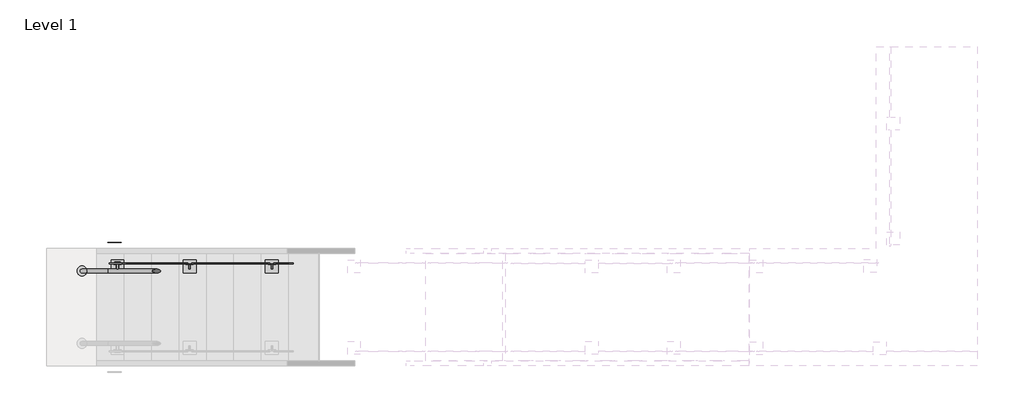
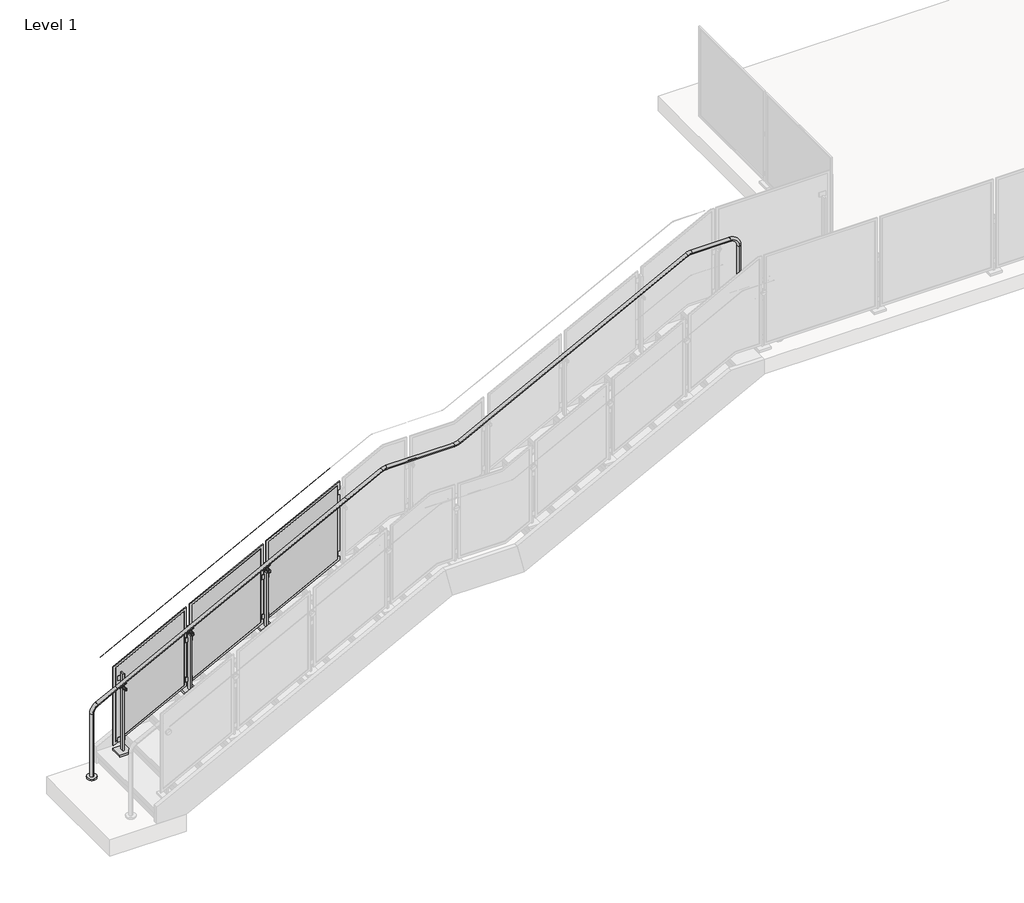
# One storey, part 13 of 28: 1 railing.
"""IFC4 building model written with IfcOpenShell, lengths in millimetres."""

from ifc_helpers import new_model, si_unit, point, frame, frame_2d, origin, place, context, project, spatial, polyline, circle_curve, ellipse_curve, trimmed, segment, composite_curve, outline, extrude, element, save
from ifc_brep_helpers import plane_surface, cylinder_surface, revolved_surface, advanced_brep

model = new_model("IFC4")

# Units and contexts
model_context = context("Model", 3, world=origin())
ifc_project = project(units=[si_unit("LENGTHUNIT", "METRE", prefix="MILLI")], contexts=[model_context])

# Site, building, storey
site = spatial("IfcSite", under=ifc_project)
building = spatial("IfcBuilding", under=site)
storey = spatial("IfcBuildingStorey", under=building, Name="Level 1", Elevation=0.0)

# Railing
placement = place(None, origin())
element("IfcRailing", 1, ObjectType="Metal-Panel-VIVA-STRUC-Slab-Top-Anchor-Stairs-Lower", at=placement, inside=storey, context=model_context, shape_type="SolidModel", body=[
    extrude(outline(composite_curve([segment(trimmed(circle_curve(frame_2d((-12073.0515794, -17632.5072387)), 50.8), [point((-12073.0515794, -17683.3072387))], [point((-12073.0515794, -17581.7072387))], False, "CARTESIAN"), True, "CONTINUOUS"), segment(trimmed(circle_curve(frame_2d((-12073.0515794, -17632.5072387)), 50.8), [point((-12073.0515794, -17581.7072387))], [point((-12073.0515794, -17683.3072387))], False, "CARTESIAN"), True, "CONTINUOUS")], self_intersect=False)), frame((0.0, 0.0, 3047.9164465), z_axis=(0.0, 0.0, 1.0), x_axis=(1.0, 0.0, 0.0)), (0.0, 0.0, 1.0), 19.05),
    extrude(outline(composite_curve([segment(trimmed(circle_curve(frame_2d((-19157.6813244, -17632.5072387)), 50.8), [point((-19157.6813244, -17581.7072387))], [point((-19157.6813244, -17683.3072387))], False, "CARTESIAN"), True, "CONTINUOUS"), segment(trimmed(circle_curve(frame_2d((-19157.6813244, -17632.5072387)), 50.8), [point((-19157.6813244, -17683.3072387))], [point((-19157.6813244, -17581.7072387))], False, "CARTESIAN"), True, "CONTINUOUS")], self_intersect=False)), frame((0.0, 0.0, -0.1113211), z_axis=(0.0, 0.0, 1.0), x_axis=(1.0, 0.0, 0.0)), (0.0, 0.0, 1.0), 19.05),
    advanced_brep(
    [(-19157.6813244, -17651.5572387, 18.9386789), (-19157.6813244, -17613.4572387, 18.9386789), (-19157.6813244, -17651.5572387, 743.6520958), (-19157.6813244, -17613.4572387, 743.6520958), (-19102.917891, -17613.4572387, 833.8124864), (-19102.917891, -17651.5572387, 833.8124864), (-18888.5494682, -17651.5572387, 945.172706), (-18888.5494682, -17613.4572387, 945.172706), (-16373.9494682, -17651.5572387, 2251.4584203), (-16373.9494682, -17613.4572387, 2251.4584203), (-15937.6556338, -17613.4572387, 2465.2134935), (-15937.6556338, -17651.5572387, 2465.2134935), (-15199.5082651, -17651.5572387, 2465.2134935), (-15199.5082651, -17613.4572387, 2465.2134935), (-15135.1079861, -17613.4572387, 2480.9429564), (-15135.1079861, -17651.5572387, 2480.9429564), (-12645.7274553, -17651.5572387, 3774.1276477), (-12645.7274553, -17613.4572387, 3774.1276477), (-15984.4922003, -17651.5572387, 2453.7738841), (-15984.4922003, -17613.4572387, 2453.7738841), (-12598.8908888, -17613.4572387, 3785.5672571), (-12598.8908888, -17651.5572387, 3785.5672571), (-12174.6515794, -17651.5572387, 3785.5672571), (-12174.6515794, -17613.4572387, 3785.5672571), (-12073.0515794, -17613.4572387, 3683.9672571), (-12073.0515794, -17651.5572387, 3683.9672571), (-12073.0515794, -17651.5572387, 3066.9664465), (-12073.0515794, -17613.4572387, 3066.9664465)],
    [
        (0, 1, circle_curve(frame((-19157.6813244, -17632.5072387, 18.9386789), z_axis=(0.0, 0.0, -1.0), x_axis=(0.0, 1.0, 0.0)), 19.05)),
        (1, 0, circle_curve(frame((-19157.6813244, -17632.5072387, 18.9386789), z_axis=(0.0, 0.0, -1.0), x_axis=(0.0, 1.0, 0.0)), 19.05)),
        (0, 2),
        (2, 3, circle_curve(frame((-19157.6813244, -17632.5072387, 743.6520958), z_axis=(0.0, 0.0, -1.0), x_axis=(0.0, 1.0, 0.0)), 19.05)),
        (3, 1),
        (3, 2, circle_curve(frame((-19157.6813244, -17632.5072387, 743.6520958), z_axis=(0.0, 0.0, -1.0), x_axis=(0.0, 1.0, 0.0)), 19.05)),
        (4, 3, circle_curve(frame((-19056.0813244, -17613.4572387, 743.6520958), z_axis=(0.0, -1.0, 0.0), x_axis=(-0.9999999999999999, 0.0, 0.0)), 101.6)),
        (2, 5, circle_curve(frame((-19056.0813244, -17651.5572387, 743.6520958), z_axis=(0.0, 1.0, 0.0), x_axis=(-0.9999999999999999, 0.0, 0.0)), 101.6)),
        (5, 4, circle_curve(frame((-19102.917891, -17632.5072387, 833.8124864), z_axis=(-0.8874054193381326, 0.0, -0.4609898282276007), x_axis=(0.0, 0.9999999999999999, 0.0)), 19.05)),
        (4, 5, circle_curve(frame((-19102.917891, -17632.5072387, 833.8124864), z_axis=(-0.8874054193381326, 0.0, -0.4609898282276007), x_axis=(0.0, 0.9999999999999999, 0.0)), 19.05)),
        (5, 6),
        (6, 7, circle_curve(frame((-18888.5494682, -17632.5072387, 945.172706), z_axis=(-0.8874054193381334, 0.0, -0.46098982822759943), x_axis=(0.0, 1.0, 0.0)), 19.05)),
        (7, 4),
        (7, 6, circle_curve(frame((-18888.5494682, -17632.5072387, 945.172706), z_axis=(-0.8874054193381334, 0.0, -0.46098982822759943), x_axis=(0.0, 1.0, 0.0)), 19.05)),
        (6, 8),
        (8, 9, circle_curve(frame((-16373.9494682, -17632.5072387, 2251.4584203), z_axis=(-0.8874054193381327, 0.0, -0.4609898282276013), x_axis=(0.0, 1.0, 0.0)), 19.05)),
        (9, 7),
        (9, 8, circle_curve(frame((-16373.9494682, -17632.5072387, 2251.4584203), z_axis=(-0.8874054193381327, 0.0, -0.4609898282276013), x_axis=(0.0, 1.0, 0.0)), 19.05)),
        (10, 11, circle_curve(frame((-15937.6556338, -17632.5072387, 2465.2134935), z_axis=(1.0, 0.0, 0.0), x_axis=(0.0, 1.0, 0.0)), 19.05)),
        (11, 12),
        (12, 13, circle_curve(frame((-15199.5082651, -17632.5072387, 2465.2134935), z_axis=(-1.0, 0.0, 0.0), x_axis=(0.0, 1.0, 0.0)), 19.05)),
        (13, 10),
        (11, 10, circle_curve(frame((-15937.6556338, -17632.5072387, 2465.2134935), z_axis=(1.0, 0.0, 0.0), x_axis=(0.0, 1.0, 0.0)), 19.05)),
        (13, 12, circle_curve(frame((-15199.5082651, -17632.5072387, 2465.2134935), z_axis=(-1.0, 0.0, 0.0), x_axis=(0.0, 1.0, 0.0)), 19.05)),
        (14, 15, circle_curve(frame((-15135.1079861, -17632.5072387, 2480.9429564), z_axis=(0.8874054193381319, 0.0, 0.4609898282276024), x_axis=(0.0, 1.0, 0.0)), 19.05)),
        (15, 16),
        (16, 17, circle_curve(frame((-12645.7274553, -17632.5072387, 3774.1276477), z_axis=(-0.8874054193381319, 0.0, -0.4609898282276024), x_axis=(0.0, 1.0, 0.0)), 19.05)),
        (17, 14),
        (15, 14, circle_curve(frame((-15135.1079861, -17632.5072387, 2480.9429564), z_axis=(0.8874054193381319, 0.0, 0.4609898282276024), x_axis=(0.0, 1.0, 0.0)), 19.05)),
        (17, 16, circle_curve(frame((-12645.7274553, -17632.5072387, 3774.1276477), z_axis=(-0.8874054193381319, 0.0, -0.4609898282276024), x_axis=(0.0, 1.0, 0.0)), 19.05)),
        (14, 13, circle_curve(frame((-15199.5082651, -17613.4572387, 2604.9134935), z_axis=(0.0, 1.0, 0.0), x_axis=(0.0, 0.0, -1.0)), 139.7)),
        (12, 15, circle_curve(frame((-15199.5082651, -17651.5572387, 2604.9134935), z_axis=(0.0, -1.0, 0.0), x_axis=(0.0, 0.0, -1.0)), 139.7)),
        (8, 18),
        (18, 19, circle_curve(frame((-15984.4922003, -17632.5072387, 2453.7738841), z_axis=(-0.8874054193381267, 0.0, -0.4609898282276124), x_axis=(0.0, 1.0, 0.0)), 19.05)),
        (19, 9),
        (19, 18, circle_curve(frame((-15984.4922003, -17632.5072387, 2453.7738841), z_axis=(-0.8874054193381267, 0.0, -0.4609898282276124), x_axis=(0.0, 1.0, 0.0)), 19.05)),
        (10, 19, circle_curve(frame((-15937.6556338, -17613.4572387, 2363.6134935), z_axis=(0.0, -1.0, 0.0), x_axis=(-0.4609898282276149, 0.0, 0.8874054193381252)), 101.6)),
        (18, 11, circle_curve(frame((-15937.6556338, -17651.5572387, 2363.6134935), z_axis=(0.0, 1.0, 0.0), x_axis=(-0.4609898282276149, 0.0, 0.8874054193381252)), 101.6)),
        (20, 17, circle_curve(frame((-12598.8908888, -17613.4572387, 3683.9672571), z_axis=(0.0, -1.0, 0.0), x_axis=(-0.4609898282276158, 0.0, 0.8874054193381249)), 101.6)),
        (16, 21, circle_curve(frame((-12598.8908888, -17651.5572387, 3683.9672571), z_axis=(0.0, 1.0, 0.0), x_axis=(-0.4609898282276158, 0.0, 0.8874054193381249)), 101.6)),
        (21, 20, circle_curve(frame((-12598.8908888, -17632.5072387, 3785.5672571), z_axis=(-1.0, 0.0, 0.0), x_axis=(0.0, 1.0, 0.0)), 19.05)),
        (20, 21, circle_curve(frame((-12598.8908888, -17632.5072387, 3785.5672571), z_axis=(-1.0, 0.0, 0.0), x_axis=(0.0, 1.0, 0.0)), 19.05)),
        (21, 22),
        (22, 23, circle_curve(frame((-12174.6515794, -17632.5072387, 3785.5672571), z_axis=(-1.0, 0.0, 0.0), x_axis=(0.0, 1.0, 0.0)), 19.05)),
        (23, 20),
        (23, 22, circle_curve(frame((-12174.6515794, -17632.5072387, 3785.5672571), z_axis=(-1.0, 0.0, 0.0), x_axis=(0.0, 1.0, 0.0)), 19.05)),
        (24, 23, circle_curve(frame((-12174.6515794, -17613.4572387, 3683.9672571), z_axis=(0.0, -1.0, 0.0), x_axis=(0.0, 0.0, 1.0)), 101.6)),
        (22, 25, circle_curve(frame((-12174.6515794, -17651.5572387, 3683.9672571), z_axis=(0.0, 1.0, 0.0), x_axis=(0.0, 0.0, 1.0)), 101.6)),
        (25, 24, circle_curve(frame((-12073.0515794, -17632.5072387, 3683.9672571), z_axis=(0.0, 0.0, 1.0), x_axis=(0.0, 1.0, 0.0)), 19.05)),
        (24, 25, circle_curve(frame((-12073.0515794, -17632.5072387, 3683.9672571), z_axis=(0.0, 0.0, 1.0), x_axis=(0.0, 1.0, 0.0)), 19.05)),
        (26, 27, circle_curve(frame((-12073.0515794, -17632.5072387, 3066.9664465), z_axis=(0.0, 0.0, -1.0), x_axis=(0.0, 1.0, 0.0)), 19.05)),
        (27, 26, circle_curve(frame((-12073.0515794, -17632.5072387, 3066.9664465), z_axis=(0.0, 0.0, -1.0), x_axis=(0.0, 1.0, 0.0)), 19.05)),
        (25, 26),
        (27, 24),
    ],
    [
        plane_surface(frame((-19176.7313244, -17670.6072387, 18.9386789), z_axis=(0.0, 0.0, -1.0), x_axis=(1.0, 0.0, 0.0))),
        cylinder_surface(frame((-19157.6813244, -17632.5072387, 18.9386789), z_axis=(0.0, 0.0, -1.0), x_axis=(0.0, 1.0, 0.0)), 19.05),
        revolved_surface(trimmed(ellipse_curve(frame((-19157.6813244, -17632.5072387, 743.6520958), z_axis=(0.0, 0.0, -0.9999999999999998), x_axis=(0.0, 0.9999999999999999, 0.0)), 19.05, 19.05), [point((-19157.6813244, -17651.5572387, 743.6520958))], [point((-19157.6813244, -17613.4572387, 743.6520958))], True, "CARTESIAN"), (-19056.0813244, -17632.5072387, 743.6520958), (0.0, 0.9999999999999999, 0.0)),
        revolved_surface(trimmed(ellipse_curve(frame((-19157.6813244, -17632.5072387, 743.6520958), z_axis=(0.0, 0.0, -0.9999999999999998), x_axis=(0.0, 0.9999999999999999, 0.0)), 19.05, 19.05), [point((-19157.6813244, -17613.4572387, 743.6520958))], [point((-19157.6813244, -17651.5572387, 743.6520958))], True, "CARTESIAN"), (-19056.0813244, -17632.5072387, 743.6520958), (0.0, 0.9999999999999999, 0.0)),
        cylinder_surface(frame((-19102.917891, -17632.5072387, 833.8124864), z_axis=(-0.8874054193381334, 0.0, -0.46098982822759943), x_axis=(0.0, 1.0, 0.0)), 19.05),
        cylinder_surface(frame((-18888.5494682, -17632.5072387, 945.172706), z_axis=(-0.8874054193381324, 0.0, -0.4609898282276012), x_axis=(0.0, 1.0, 0.0)), 19.05),
        cylinder_surface(frame((-15937.6556338, -17632.5072387, 2465.2134935), z_axis=(-1.0, 0.0, 0.0), x_axis=(0.0, 1.0, 0.0)), 19.05),
        cylinder_surface(frame((-15135.1079861, -17632.5072387, 2480.9429564), z_axis=(-0.8874054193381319, 0.0, -0.4609898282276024), x_axis=(0.0, 1.0, 0.0)), 19.05),
        revolved_surface(trimmed(ellipse_curve(frame((-15199.5082651, -17632.5072387, 2465.2134935), z_axis=(-1.0, 0.0, 0.0), x_axis=(0.0, 1.0, 0.0)), 19.05, 19.05), [point((-15199.5082651, -17651.5572387, 2465.2134935))], [point((-15199.5082651, -17613.4572387, 2465.2134935))], True, "CARTESIAN"), (-15199.5082651, -17632.5072387, 2604.9134935), (0.0, -1.0, 0.0)),
        revolved_surface(trimmed(ellipse_curve(frame((-15199.5082651, -17632.5072387, 2465.2134935), z_axis=(-1.0, 0.0, 0.0), x_axis=(0.0, 1.0, 0.0)), 19.05, 19.05), [point((-15199.5082651, -17613.4572387, 2465.2134935))], [point((-15199.5082651, -17651.5572387, 2465.2134935))], True, "CARTESIAN"), (-15199.5082651, -17632.5072387, 2604.9134935), (0.0, -1.0, 0.0)),
        cylinder_surface(frame((-16373.9494682, -17632.5072387, 2251.4584203), z_axis=(-0.8874054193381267, 0.0, -0.4609898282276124), x_axis=(0.0, 1.0, 0.0)), 19.05),
        revolved_surface(trimmed(ellipse_curve(frame((-15984.4922003, -17632.5072387, 2453.7738841), z_axis=(-0.887405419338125, 0.0, -0.46098982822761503), x_axis=(0.0, 0.9999999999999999, 0.0)), 19.05, 19.05), [point((-15984.4922003, -17651.5572387, 2453.7738841))], [point((-15984.4922003, -17613.4572387, 2453.7738841))], True, "CARTESIAN"), (-15937.6556338, -17632.5072387, 2363.6134935), (0.0, 0.9999999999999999, 0.0)),
        revolved_surface(trimmed(ellipse_curve(frame((-15984.4922003, -17632.5072387, 2453.7738841), z_axis=(-0.887405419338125, 0.0, -0.46098982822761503), x_axis=(0.0, 0.9999999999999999, 0.0)), 19.05, 19.05), [point((-15984.4922003, -17613.4572387, 2453.7738841))], [point((-15984.4922003, -17651.5572387, 2453.7738841))], True, "CARTESIAN"), (-15937.6556338, -17632.5072387, 2363.6134935), (0.0, 0.9999999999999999, 0.0)),
        revolved_surface(trimmed(ellipse_curve(frame((-12645.7274553, -17632.5072387, 3774.1276477), z_axis=(-0.8874054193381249, 0.0, -0.4609898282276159), x_axis=(0.0, 1.0, 0.0)), 19.05, 19.05), [point((-12645.7274553, -17651.5572387, 3774.1276477))], [point((-12645.7274553, -17613.4572387, 3774.1276477))], True, "CARTESIAN"), (-12598.8908888, -17632.5072387, 3683.9672571), (0.0, 1.0, 0.0)),
        revolved_surface(trimmed(ellipse_curve(frame((-12645.7274553, -17632.5072387, 3774.1276477), z_axis=(-0.8874054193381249, 0.0, -0.4609898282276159), x_axis=(0.0, 1.0, 0.0)), 19.05, 19.05), [point((-12645.7274553, -17613.4572387, 3774.1276477))], [point((-12645.7274553, -17651.5572387, 3774.1276477))], True, "CARTESIAN"), (-12598.8908888, -17632.5072387, 3683.9672571), (0.0, 1.0, 0.0)),
        cylinder_surface(frame((-12598.8908888, -17632.5072387, 3785.5672571), z_axis=(-1.0, 0.0, 0.0), x_axis=(0.0, 1.0, 0.0)), 19.05),
        revolved_surface(trimmed(ellipse_curve(frame((-12174.6515794, -17632.5072387, 3785.5672571), z_axis=(-1.0, 0.0, 0.0), x_axis=(0.0, 1.0, 0.0)), 19.05, 19.05), [point((-12174.6515794, -17651.5572387, 3785.5672571))], [point((-12174.6515794, -17613.4572387, 3785.5672571))], True, "CARTESIAN"), (-12174.6515794, -17632.5072387, 3683.9672571), (0.0, 1.0, 0.0)),
        revolved_surface(trimmed(ellipse_curve(frame((-12174.6515794, -17632.5072387, 3785.5672571), z_axis=(-1.0, 0.0, 0.0), x_axis=(0.0, 1.0, 0.0)), 19.05, 19.05), [point((-12174.6515794, -17613.4572387, 3785.5672571))], [point((-12174.6515794, -17651.5572387, 3785.5672571))], True, "CARTESIAN"), (-12174.6515794, -17632.5072387, 3683.9672571), (0.0, 1.0, 0.0)),
        plane_surface(frame((-12054.0015794, -17670.6072387, 3066.9664465), z_axis=(0.0, 0.0, -1.0), x_axis=(-1.0, 0.0, 0.0))),
        cylinder_surface(frame((-12073.0515794, -17632.5072387, 3683.9672571), z_axis=(0.0, 0.0, 1.0), x_axis=(0.0, 1.0, 0.0)), 19.05),
    ],
    [
        (0, [[1, 2]]),
        (1, [[-1, 3, 4, 5]]),
        (1, [[-2, -5, 6, -3]]),
        (2, [[7, -4, 8, 9]]),
        (3, [[-8, -6, -7, 10]]),
        (4, [[-9, 11, 12, 13]]),
        (4, [[-10, -13, 14, -11]]),
        (5, [[-12, 15, 16, 17]]),
        (5, [[-14, -17, 18, -15]]),
        (6, [[19, 20, 21, 22]]),
        (6, [[23, -22, 24, -20]]),
        (7, [[25, 26, 27, 28]]),
        (7, [[29, -28, 30, -26]]),
        (8, [[31, -21, 32, -25]]),
        (9, [[-32, -24, -31, -29]]),
        (10, [[-16, 33, 34, 35]]),
        (10, [[-18, -35, 36, -33]]),
        (11, [[37, -34, 38, -19]]),
        (12, [[-38, -36, -37, -23]]),
        (13, [[39, -27, 40, 41]]),
        (14, [[-40, -30, -39, 42]]),
        (15, [[-41, 43, 44, 45]]),
        (15, [[-42, -45, 46, -43]]),
        (16, [[47, -44, 48, 49]]),
        (17, [[-48, -46, -47, 50]]),
        (18, [[51, 52]]),
        (19, [[-49, 53, -52, 54]]),
        (19, [[-50, -54, -51, -53]]),
    ],
),
    advanced_brep(
    [(-18897.3313244, -17340.7578387, 1127.7573389), (-18897.3313244, -17339.7578387, 1127.7573389), (-16382.7313244, -17340.7578387, 2434.0430532), (-16382.7313244, -17339.7578387, 2434.0430532)],
    [
        (0, 1, ellipse_curve(frame((-18897.3313244, -17340.2578387, 1127.7573389), z_axis=(-1.0, 0.0, 0.0), x_axis=(0.0, 0.0, -1.0)), 0.5634403, 0.5)),
        (1, 0, ellipse_curve(frame((-18897.3313244, -17340.2578387, 1127.7573389), z_axis=(-1.0, 0.0, 0.0), x_axis=(0.0, 0.0, -1.0)), 0.5634403, 0.5)),
        (2, 3, ellipse_curve(frame((-16382.7313244, -17340.2578387, 2434.0430532), z_axis=(1.0, 0.0, 0.0), x_axis=(0.0, 0.0, -1.0)), 0.5634403, 0.5)),
        (3, 2, ellipse_curve(frame((-16382.7313244, -17340.2578387, 2434.0430532), z_axis=(1.0, 0.0, 0.0), x_axis=(0.0, 0.0, -1.0)), 0.5634403, 0.5)),
        (0, 2),
        (3, 1),
    ],
    [
        plane_surface(frame((-18897.3313244, -17340.2578387, 1128.3207792), z_axis=(-1.0, 0.0, 0.0), x_axis=(0.0, 1.0, 0.0))),
        plane_surface(frame((-16382.7313244, -17340.2578387, 2434.6064935), z_axis=(1.0, 0.0, 0.0), x_axis=(0.0, 1.0, 0.0))),
        cylinder_surface(frame((-18897.1008295, -17340.2578387, 1127.8770765), z_axis=(-0.8874054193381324, 0.0, -0.4609898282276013), x_axis=(0.0, 1.0, 0.0)), 0.5),
    ],
    [
        (0, [[1, 2]]),
        (1, [[3, 4]]),
        (2, [[-1, 5, -4, 6]]),
        (2, [[-2, -6, -3, -5]]),
    ],
),
    extrude(outline(polyline([(1137.4121771, -17176.4853675), (1526.663131, -16427.1772814), (2380.4498878, -16427.1772814), (1991.198934, -17176.4853675), (1137.4121771, -17176.4853675)])), frame((0.0, -17557.9088387, 0.0), z_axis=(0.0, 1.0, 0.0), x_axis=(0.0, 0.0, 1.0)), (0.0, 0.0, 1.0), 3.0),
    extrude(outline(polyline([(2006.6268974, -17201.8853675), (1095.5946033, -17201.8853675), (1511.2351675, -16401.7772814), (2422.2674616, -16401.7772814), (2006.6268974, -17201.8853675)]), holes=[polyline([(1137.4121771, -17176.4853675), (1991.198934, -17176.4853675), (2380.4498878, -16427.1772814), (1526.663131, -16427.1772814), (1137.4121771, -17176.4853675)])]), frame((0.0, -17557.9088387, 0.0), z_axis=(0.0, 1.0, 0.0), x_axis=(0.0, 0.0, 1.0)), (0.0, 0.0, 1.0), 9.525),
    extrude(outline(polyline([(-17259.0320437, -17565.3750387), (-17259.0320437, -17558.2630387), (-17182.8306052, -17558.2630387), (-17182.8306052, -17565.3750387), (-17259.0320437, -17565.3750387)])), frame((0.0, 0.0, 1585.976), z_axis=(0.0, 0.0, 1.0), x_axis=(1.0, 0.0, 0.0)), (0.0, 0.0, 1.0), 50.8),
    extrude(outline(polyline([(-17259.0320437, -17565.3750387), (-17259.0320437, -17558.2630387), (-17182.8306052, -17558.2630387), (-17182.8306052, -17565.3750387), (-17259.0320437, -17565.3750387)])), frame((0.0, 0.0, 1128.776), z_axis=(0.0, 0.0, 1.0), x_axis=(1.0, 0.0, 0.0)), (0.0, 0.0, 1.0), 50.8),
    extrude(outline(composite_curve([segment(trimmed(circle_curve(frame_2d((-19.0451471, 0.0)), 22.0448871), [point((2.99974, -1e-07))], [point((-24.3499073, -21.397116))], False, "CARTESIAN"), True, "CONTINUOUS"), segment(polyline([(-24.3499073, -21.397116), (-23.6280664, -18.4855208)]), True, "CONTINUOUS"), segment(trimmed(circle_curve(frame_2d((-19.0451471, 0.0)), 19.0451471), [point((-23.6280664, -18.4855208))], [point((0.0, 0.0))], True, "CARTESIAN"), True, "CONTINUOUS"), segment(polyline([(0.0, 0.0), (2.99974, -1e-07)]), True, "CONTINUOUS")], self_intersect=False)), frame((-17283.4190349, -17619.4630387, 1757.5297189), z_axis=(0.8874054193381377, 0.0, 0.46098982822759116), x_axis=(0.28405456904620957, 0.7876022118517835, -0.5468050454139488)), (0.0, 0.0, 1.0), 79.1184357),
    advanced_brep(
    [(-17208.5341468, -17634.4630387, 1699.1899551), (-17208.5341468, -17641.6067887, 1699.1899551), (-17208.5341468, -17627.3192887, 1699.1899551), (-17244.3933931, -17627.3192887, 1768.2190042), (-17244.3933931, -17641.6067887, 1768.2190042), (-17244.3933931, -17634.4630387, 1768.2190042)],
    [
        (0, 1),
        (1, 2, circle_curve(frame((-17208.5341468, -17634.4630387, 1699.1899551), z_axis=(0.46098982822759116, 0.0, -0.8874054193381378), x_axis=(0.0, -1.0, 0.0)), 7.14375)),
        (2, 0),
        (3, 4, circle_curve(frame((-17244.3933931, -17634.4630387, 1768.2190042), z_axis=(-0.46098982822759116, 0.0, 0.8874054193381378), x_axis=(0.0, -1.0, 0.0)), 7.14375)),
        (4, 5),
        (5, 3),
        (2, 1, circle_curve(frame((-17208.5341468, -17634.4630387, 1699.1899551), z_axis=(0.46098982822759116, 0.0, -0.8874054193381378), x_axis=(0.0, -1.0, 0.0)), 7.14375)),
        (4, 3, circle_curve(frame((-17244.3933931, -17634.4630387, 1768.2190042), z_axis=(-0.46098982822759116, 0.0, 0.8874054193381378), x_axis=(0.0, -1.0, 0.0)), 7.14375)),
        (1, 4),
        (3, 2),
    ],
    [
        plane_surface(frame((-17208.5341468, -17634.4630387, 1699.1899551), z_axis=(0.46098982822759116, 0.0, -0.8874054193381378), x_axis=(0.0, -1.0, 0.0))),
        plane_surface(frame((-17244.3933931, -17634.4630387, 1768.2190042), z_axis=(-0.46098982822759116, 0.0, 0.8874054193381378), x_axis=(0.0, -1.0, 0.0))),
        cylinder_surface(frame((-17091.5799469, -17634.4630387, 1474.0531204), z_axis=(0.46098982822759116, 0.0, -0.8874054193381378), x_axis=(0.0, -1.0, 0.0)), 7.14375),
    ],
    [
        (0, [[1, 2, 3]]),
        (1, [[4, 5, 6]]),
        (0, [[-3, 7, -1]]),
        (1, [[8, -6, -5]]),
        (2, [[-2, 9, -4, 10]]),
        (2, [[-7, -10, -8, -9]]),
    ],
),
    advanced_brep(
    [(-17247.6976904, -17548.7380387, 1709.1499164), (-17194.1649585, -17548.7380387, 1736.9591278), (-17215.2963, -17548.7380387, 1725.9818075), (-17226.5663488, -17548.7380387, 1720.1272367), (-17247.6976904, -17540.8005387, 1709.1499164), (-17194.1649585, -17540.8005387, 1736.9591278), (-17247.6976904, -17566.2005387, 1709.1499164), (-17194.1649585, -17566.2005387, 1736.9591278), (-17209.6612756, -17566.2005387, 1728.9090929), (-17232.2013733, -17566.2005387, 1717.1999513), (-17247.6976904, -17558.2630387, 1709.1499164), (-17194.1649585, -17558.2630387, 1736.9591278), (-17220.9313244, -17540.8005387, 1723.0545221), (-17232.2013733, -17645.5755387, 1717.1999513), (-17209.6612756, -17645.5755387, 1728.9090929), (-17220.9313244, -17645.5755387, 1723.0545221), (-17226.5663488, -17558.2630387, 1720.1272367), (-17215.2963, -17558.2630387, 1725.9818075)],
    [
        (0, 1, circle_curve(frame((-17220.9313244, -17548.7380387, 1723.0545221), z_axis=(0.0, -1.0, 0.0), x_axis=(0.887405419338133, 0.0, 0.46098982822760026)), 30.1625)),
        (1, 2),
        (2, 3, circle_curve(frame((-17220.9313244, -17548.7380387, 1723.0545221), z_axis=(0.0, 1.0, 0.0), x_axis=(0.887405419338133, 0.0, 0.46098982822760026)), 6.35)),
        (3, 0),
        (4, 5, circle_curve(frame((-17220.9313244, -17540.8005387, 1723.0545221), z_axis=(0.0, -1.0, 0.0), x_axis=(0.887405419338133, 0.0, 0.46098982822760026)), 30.1625)),
        (5, 1),
        (0, 4),
        (6, 7, circle_curve(frame((-17220.9313244, -17566.2005387, 1723.0545221), z_axis=(0.0, -1.0, 0.0), x_axis=(0.887405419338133, 0.0, 0.46098982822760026)), 30.1625)),
        (7, 8),
        (8, 9, circle_curve(frame((-17220.9313244, -17566.2005387, 1723.0545221), z_axis=(0.0, 1.0, 0.0), x_axis=(0.887405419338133, 0.0, 0.46098982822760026)), 12.7)),
        (9, 6),
        (10, 11, circle_curve(frame((-17220.9313244, -17558.2630387, 1723.0545221), z_axis=(0.0, -1.0, 0.0), x_axis=(0.887405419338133, 0.0, 0.46098982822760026)), 30.1625)),
        (11, 7),
        (6, 10),
        (5, 4, circle_curve(frame((-17220.9313244, -17540.8005387, 1723.0545221), z_axis=(0.0, -1.0, 0.0), x_axis=(0.887405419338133, 0.0, 0.46098982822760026)), 30.1625)),
        (0, 1, circle_curve(frame((-17220.9313244, -17548.7380387, 1723.0545221), z_axis=(0.0, 1.0, 0.0), x_axis=(0.887405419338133, 0.0, 0.46098982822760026)), 30.1625)),
        (12, 5),
        (4, 12),
        (13, 14, circle_curve(frame((-17220.9313244, -17645.5755387, 1723.0545221), z_axis=(0.0, -1.0, 0.0), x_axis=(0.887405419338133, 0.0, 0.46098982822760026)), 12.7)),
        (14, 15),
        (15, 13),
        (14, 13, circle_curve(frame((-17220.9313244, -17645.5755387, 1723.0545221), z_axis=(0.0, -1.0, 0.0), x_axis=(0.887405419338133, 0.0, 0.46098982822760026)), 12.7)),
        (8, 14),
        (13, 9),
        (8, 9, circle_curve(frame((-17220.9313244, -17566.2005387, 1723.0545221), z_axis=(0.0, -1.0, 0.0), x_axis=(0.887405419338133, 0.0, 0.46098982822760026)), 12.7)),
        (7, 6, circle_curve(frame((-17220.9313244, -17566.2005387, 1723.0545221), z_axis=(0.0, -1.0, 0.0), x_axis=(0.887405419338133, 0.0, 0.46098982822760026)), 30.1625)),
        (11, 10, circle_curve(frame((-17220.9313244, -17558.2630387, 1723.0545221), z_axis=(0.0, -1.0, 0.0), x_axis=(0.887405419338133, 0.0, 0.46098982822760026)), 30.1625)),
        (16, 17, circle_curve(frame((-17220.9313244, -17558.2630387, 1723.0545221), z_axis=(0.0, -1.0, 0.0), x_axis=(0.887405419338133, 0.0, 0.46098982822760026)), 6.35)),
        (17, 11),
        (10, 16),
        (17, 16, circle_curve(frame((-17220.9313244, -17558.2630387, 1723.0545221), z_axis=(0.0, -1.0, 0.0), x_axis=(0.887405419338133, 0.0, 0.46098982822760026)), 6.35)),
        (2, 17),
        (16, 3),
        (2, 3, circle_curve(frame((-17220.9313244, -17548.7380387, 1723.0545221), z_axis=(0.0, -1.0, 0.0), x_axis=(0.887405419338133, 0.0, 0.46098982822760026)), 6.35)),
    ],
    [
        plane_surface(frame((-17220.9313244, -17548.7380387, 1723.0545221), z_axis=(0.0, -1.0, 0.0), x_axis=(0.887405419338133, 0.0, 0.46098982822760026))),
        cylinder_surface(frame((-17220.9313244, -16034.2630387, 1723.0545221), z_axis=(0.0, 1.0, 0.0), x_axis=(0.887405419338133, 0.0, 0.46098982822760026)), 30.1625),
        plane_surface(frame((-17220.9313244, -17566.2005387, 1723.0545221), z_axis=(0.0, -1.0, 0.0), x_axis=(0.887405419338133, 0.0, 0.46098982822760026))),
        plane_surface(frame((-17220.9313244, -17540.8005387, 1723.0545221), z_axis=(0.0, 1.0, 0.0), x_axis=(0.887405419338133, 0.0, 0.46098982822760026))),
        plane_surface(frame((-17220.9313244, -17645.5755387, 1723.0545221), z_axis=(0.0, -1.0, 0.0), x_axis=(0.887405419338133, 0.0, 0.46098982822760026))),
        cylinder_surface(frame((-17220.9313244, -16034.2630387, 1723.0545221), z_axis=(0.0, 1.0, 0.0), x_axis=(0.887405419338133, 0.0, 0.46098982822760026)), 12.7),
        plane_surface(frame((-17220.9313244, -17558.2630387, 1723.0545221), z_axis=(0.0, 1.0, 0.0), x_axis=(0.887405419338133, 0.0, 0.46098982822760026))),
        cylinder_surface(frame((-17220.9313244, -16034.2630387, 1723.0545221), z_axis=(0.0, 1.0, 0.0), x_axis=(0.887405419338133, 0.0, 0.46098982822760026)), 6.35),
    ],
    [
        (0, [[1, 2, 3, 4]]),
        (1, [[5, 6, -1, 7]]),
        (2, [[8, 9, 10, 11]]),
        (1, [[12, 13, -8, 14]]),
        (1, [[15, -7, 16, -6]]),
        (3, [[17, -5, 18]]),
        (3, [[-18, -15, -17]]),
        (4, [[19, 20, 21]]),
        (4, [[22, -21, -20]]),
        (5, [[-10, 23, -19, 24]]),
        (5, [[25, -24, -22, -23]]),
        (2, [[26, -11, -25, -9]]),
        (1, [[27, -14, -26, -13]]),
        (6, [[28, 29, -12, 30]]),
        (6, [[31, -30, -27, -29]]),
        (7, [[-3, 32, -28, 33]]),
        (7, [[34, -33, -31, -32]]),
        (0, [[-16, -4, -34, -2]]),
    ],
),
    extrude(outline(polyline([(-17286.8189244, -17653.4876387), (-17286.8189244, -17521.7124387), (-17155.0437244, -17521.7124387), (-17155.0437244, -17653.4876387), (-17286.8189244, -17653.4876387)])), frame((0.0, 0.0, 1016.0), z_axis=(0.0, 0.0, 1.0), x_axis=(1.0, 0.0, 0.0)), (0.0, 0.0, 1.0), 25.4),
    extrude(outline(polyline([(-17228.8709161, -17609.8250387), (-17228.8709161, -17565.3750387), (-17212.9917328, -17565.3750387), (-17212.9917328, -17609.8250387), (-17228.8709161, -17609.8250387)])), frame((0.0, 0.0, 1016.0), z_axis=(0.0, 0.0, 1.0), x_axis=(1.0, 0.0, 0.0)), (0.0, 0.0, 1.0), 660.4),
    extrude(outline(polyline([(701.9836057, -18014.6853675), (1091.2345595, -17265.3772814), (1945.0213164, -17265.3772814), (1555.7703626, -18014.6853675), (701.9836057, -18014.6853675)])), frame((0.0, -17557.9088387, 0.0), z_axis=(0.0, 1.0, 0.0), x_axis=(0.0, 0.0, 1.0)), (0.0, 0.0, 1.0), 3.0),
    extrude(outline(polyline([(1571.198326, -18040.0853675), (660.1660319, -18040.0853675), (1075.8065961, -17239.9772814), (1986.8388902, -17239.9772814), (1571.198326, -18040.0853675)]), holes=[polyline([(701.9836057, -18014.6853675), (1555.7703626, -18014.6853675), (1945.0213164, -17265.3772814), (1091.2345595, -17265.3772814), (701.9836057, -18014.6853675)])]), frame((0.0, -17557.9088387, 0.0), z_axis=(0.0, 1.0, 0.0), x_axis=(0.0, 0.0, 1.0)), (0.0, 0.0, 1.0), 9.525),
    extrude(outline(polyline([(-18097.2320437, -17565.3750387), (-18097.2320437, -17558.2630387), (-18021.0306052, -17558.2630387), (-18021.0306052, -17565.3750387), (-18097.2320437, -17565.3750387)])), frame((0.0, 0.0, 1150.5474286), z_axis=(0.0, 0.0, 1.0), x_axis=(1.0, 0.0, 0.0)), (0.0, 0.0, 1.0), 50.8),
    extrude(outline(polyline([(-18097.2320437, -17565.3750387), (-18097.2320437, -17558.2630387), (-18021.0306052, -17558.2630387), (-18021.0306052, -17565.3750387), (-18097.2320437, -17565.3750387)])), frame((0.0, 0.0, 693.3474286), z_axis=(0.0, 0.0, 1.0), x_axis=(1.0, 0.0, 0.0)), (0.0, 0.0, 1.0), 50.8),
    extrude(outline(composite_curve([segment(trimmed(circle_curve(frame_2d((-19.0451471, 0.0)), 22.0448871), [point((2.99974, -1e-07))], [point((-24.3499073, -21.397116))], False, "CARTESIAN"), True, "CONTINUOUS"), segment(polyline([(-24.3499073, -21.397116), (-23.6280664, -18.4855208)]), True, "CONTINUOUS"), segment(trimmed(circle_curve(frame_2d((-19.0451471, 0.0)), 19.0451471), [point((-23.6280664, -18.4855208))], [point((0.0, 0.0))], True, "CARTESIAN"), True, "CONTINUOUS"), segment(polyline([(0.0, 0.0), (2.99974, -1e-07)]), True, "CONTINUOUS")], self_intersect=False)), frame((-18121.6190349, -17619.4630387, 1322.1011475), z_axis=(0.8874054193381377, 0.0, 0.46098982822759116), x_axis=(0.28405456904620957, 0.7876022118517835, -0.5468050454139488)), (0.0, 0.0, 1.0), 79.1184357),
    advanced_brep(
    [(-18046.7341468, -17634.4630387, 1263.7613837), (-18046.7341468, -17641.6067887, 1263.7613837), (-18046.7341468, -17627.3192887, 1263.7613837), (-18082.5933931, -17627.3192887, 1332.7904328), (-18082.5933931, -17641.6067887, 1332.7904328), (-18082.5933931, -17634.4630387, 1332.7904328)],
    [
        (0, 1),
        (1, 2, circle_curve(frame((-18046.7341468, -17634.4630387, 1263.7613837), z_axis=(0.46098982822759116, 0.0, -0.8874054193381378), x_axis=(0.0, -1.0, 0.0)), 7.14375)),
        (2, 0),
        (3, 4, circle_curve(frame((-18082.5933931, -17634.4630387, 1332.7904328), z_axis=(-0.46098982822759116, 0.0, 0.8874054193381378), x_axis=(0.0, -1.0, 0.0)), 7.14375)),
        (4, 5),
        (5, 3),
        (2, 1, circle_curve(frame((-18046.7341468, -17634.4630387, 1263.7613837), z_axis=(0.46098982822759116, 0.0, -0.8874054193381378), x_axis=(0.0, -1.0, 0.0)), 7.14375)),
        (4, 3, circle_curve(frame((-18082.5933931, -17634.4630387, 1332.7904328), z_axis=(-0.46098982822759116, 0.0, 0.8874054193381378), x_axis=(0.0, -1.0, 0.0)), 7.14375)),
        (1, 4),
        (3, 2),
    ],
    [
        plane_surface(frame((-18046.7341468, -17634.4630387, 1263.7613837), z_axis=(0.46098982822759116, 0.0, -0.8874054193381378), x_axis=(0.0, -1.0, 0.0))),
        plane_surface(frame((-18082.5933931, -17634.4630387, 1332.7904328), z_axis=(-0.46098982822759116, 0.0, 0.8874054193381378), x_axis=(0.0, -1.0, 0.0))),
        cylinder_surface(frame((-17929.7799469, -17634.4630387, 1038.624549), z_axis=(0.46098982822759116, 0.0, -0.8874054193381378), x_axis=(0.0, -1.0, 0.0)), 7.14375),
    ],
    [
        (0, [[1, 2, 3]]),
        (1, [[4, 5, 6]]),
        (0, [[-3, 7, -1]]),
        (1, [[8, -6, -5]]),
        (2, [[-2, 9, -4, 10]]),
        (2, [[-7, -10, -8, -9]]),
    ],
),
    advanced_brep(
    [(-18085.8976904, -17548.7380387, 1273.721345), (-18032.3649585, -17548.7380387, 1301.5305563), (-18053.4963, -17548.7380387, 1290.5532361), (-18064.7663488, -17548.7380387, 1284.6986652), (-18085.8976904, -17540.8005387, 1273.721345), (-18032.3649585, -17540.8005387, 1301.5305563), (-18085.8976904, -17566.2005387, 1273.721345), (-18032.3649585, -17566.2005387, 1301.5305563), (-18047.8612756, -17566.2005387, 1293.4805215), (-18070.4013733, -17566.2005387, 1281.7713798), (-18085.8976904, -17558.2630387, 1273.721345), (-18032.3649585, -17558.2630387, 1301.5305563), (-18059.1313244, -17540.8005387, 1287.6259506), (-18070.4013733, -17645.5755387, 1281.7713798), (-18047.8612756, -17645.5755387, 1293.4805215), (-18059.1313244, -17645.5755387, 1287.6259506), (-18064.7663488, -17558.2630387, 1284.6986652), (-18053.4963, -17558.2630387, 1290.5532361)],
    [
        (0, 1, circle_curve(frame((-18059.1313244, -17548.7380387, 1287.6259506), z_axis=(0.0, -1.0, 0.0), x_axis=(0.887405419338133, 0.0, 0.46098982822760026)), 30.1625)),
        (1, 2),
        (2, 3, circle_curve(frame((-18059.1313244, -17548.7380387, 1287.6259506), z_axis=(0.0, 1.0, 0.0), x_axis=(0.887405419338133, 0.0, 0.46098982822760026)), 6.35)),
        (3, 0),
        (4, 5, circle_curve(frame((-18059.1313244, -17540.8005387, 1287.6259506), z_axis=(0.0, -1.0, 0.0), x_axis=(0.887405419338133, 0.0, 0.46098982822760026)), 30.1625)),
        (5, 1),
        (0, 4),
        (6, 7, circle_curve(frame((-18059.1313244, -17566.2005387, 1287.6259506), z_axis=(0.0, -1.0, 0.0), x_axis=(0.887405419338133, 0.0, 0.46098982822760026)), 30.1625)),
        (7, 8),
        (8, 9, circle_curve(frame((-18059.1313244, -17566.2005387, 1287.6259506), z_axis=(0.0, 1.0, 0.0), x_axis=(0.887405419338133, 0.0, 0.46098982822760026)), 12.7)),
        (9, 6),
        (10, 11, circle_curve(frame((-18059.1313244, -17558.2630387, 1287.6259506), z_axis=(0.0, -1.0, 0.0), x_axis=(0.887405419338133, 0.0, 0.46098982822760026)), 30.1625)),
        (11, 7),
        (6, 10),
        (5, 4, circle_curve(frame((-18059.1313244, -17540.8005387, 1287.6259506), z_axis=(0.0, -1.0, 0.0), x_axis=(0.887405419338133, 0.0, 0.46098982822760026)), 30.1625)),
        (0, 1, circle_curve(frame((-18059.1313244, -17548.7380387, 1287.6259506), z_axis=(0.0, 1.0, 0.0), x_axis=(0.887405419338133, 0.0, 0.46098982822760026)), 30.1625)),
        (12, 5),
        (4, 12),
        (13, 14, circle_curve(frame((-18059.1313244, -17645.5755387, 1287.6259506), z_axis=(0.0, -1.0, 0.0), x_axis=(0.887405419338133, 0.0, 0.46098982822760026)), 12.7)),
        (14, 15),
        (15, 13),
        (14, 13, circle_curve(frame((-18059.1313244, -17645.5755387, 1287.6259506), z_axis=(0.0, -1.0, 0.0), x_axis=(0.887405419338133, 0.0, 0.46098982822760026)), 12.7)),
        (8, 14),
        (13, 9),
        (8, 9, circle_curve(frame((-18059.1313244, -17566.2005387, 1287.6259506), z_axis=(0.0, -1.0, 0.0), x_axis=(0.887405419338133, 0.0, 0.46098982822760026)), 12.7)),
        (7, 6, circle_curve(frame((-18059.1313244, -17566.2005387, 1287.6259506), z_axis=(0.0, -1.0, 0.0), x_axis=(0.887405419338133, 0.0, 0.46098982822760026)), 30.1625)),
        (11, 10, circle_curve(frame((-18059.1313244, -17558.2630387, 1287.6259506), z_axis=(0.0, -1.0, 0.0), x_axis=(0.887405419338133, 0.0, 0.46098982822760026)), 30.1625)),
        (16, 17, circle_curve(frame((-18059.1313244, -17558.2630387, 1287.6259506), z_axis=(0.0, -1.0, 0.0), x_axis=(0.887405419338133, 0.0, 0.46098982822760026)), 6.35)),
        (17, 11),
        (10, 16),
        (17, 16, circle_curve(frame((-18059.1313244, -17558.2630387, 1287.6259506), z_axis=(0.0, -1.0, 0.0), x_axis=(0.887405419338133, 0.0, 0.46098982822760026)), 6.35)),
        (2, 17),
        (16, 3),
        (2, 3, circle_curve(frame((-18059.1313244, -17548.7380387, 1287.6259506), z_axis=(0.0, -1.0, 0.0), x_axis=(0.887405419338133, 0.0, 0.46098982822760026)), 6.35)),
    ],
    [
        plane_surface(frame((-18059.1313244, -17548.7380387, 1287.6259506), z_axis=(0.0, -1.0, 0.0), x_axis=(0.887405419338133, 0.0, 0.46098982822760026))),
        cylinder_surface(frame((-18059.1313244, -16034.2630387, 1287.6259506), z_axis=(0.0, 1.0, 0.0), x_axis=(0.887405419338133, 0.0, 0.46098982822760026)), 30.1625),
        plane_surface(frame((-18059.1313244, -17566.2005387, 1287.6259506), z_axis=(0.0, -1.0, 0.0), x_axis=(0.887405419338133, 0.0, 0.46098982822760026))),
        plane_surface(frame((-18059.1313244, -17540.8005387, 1287.6259506), z_axis=(0.0, 1.0, 0.0), x_axis=(0.887405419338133, 0.0, 0.46098982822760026))),
        plane_surface(frame((-18059.1313244, -17645.5755387, 1287.6259506), z_axis=(0.0, -1.0, 0.0), x_axis=(0.887405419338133, 0.0, 0.46098982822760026))),
        cylinder_surface(frame((-18059.1313244, -16034.2630387, 1287.6259506), z_axis=(0.0, 1.0, 0.0), x_axis=(0.887405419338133, 0.0, 0.46098982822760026)), 12.7),
        plane_surface(frame((-18059.1313244, -17558.2630387, 1287.6259506), z_axis=(0.0, 1.0, 0.0), x_axis=(0.887405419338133, 0.0, 0.46098982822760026))),
        cylinder_surface(frame((-18059.1313244, -16034.2630387, 1287.6259506), z_axis=(0.0, 1.0, 0.0), x_axis=(0.887405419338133, 0.0, 0.46098982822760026)), 6.35),
    ],
    [
        (0, [[1, 2, 3, 4]]),
        (1, [[5, 6, -1, 7]]),
        (2, [[8, 9, 10, 11]]),
        (1, [[12, 13, -8, 14]]),
        (1, [[15, -7, 16, -6]]),
        (3, [[17, -5, 18]]),
        (3, [[-18, -15, -17]]),
        (4, [[19, 20, 21]]),
        (4, [[22, -21, -20]]),
        (5, [[-10, 23, -19, 24]]),
        (5, [[25, -24, -22, -23]]),
        (2, [[26, -11, -25, -9]]),
        (1, [[27, -14, -26, -13]]),
        (6, [[28, 29, -12, 30]]),
        (6, [[31, -30, -27, -29]]),
        (7, [[-3, 32, -28, 33]]),
        (7, [[34, -33, -31, -32]]),
        (0, [[-16, -4, -34, -2]]),
    ],
),
    extrude(outline(polyline([(-18125.0189244, -17653.4876387), (-18125.0189244, -17521.7124387), (-17993.2437244, -17521.7124387), (-17993.2437244, -17653.4876387), (-18125.0189244, -17653.4876387)])), frame((0.0, 0.0, 580.5714286), z_axis=(0.0, 0.0, 1.0), x_axis=(1.0, 0.0, 0.0)), (0.0, 0.0, 1.0), 25.4),
    extrude(outline(polyline([(-18067.0709161, -17609.8250387), (-18067.0709161, -17565.3750387), (-18051.1917328, -17565.3750387), (-18051.1917328, -17609.8250387), (-18067.0709161, -17609.8250387)])), frame((0.0, 0.0, 580.5714286), z_axis=(0.0, 0.0, 1.0), x_axis=(1.0, 0.0, 0.0)), (0.0, 0.0, 1.0), 660.4),
    extrude(outline(polyline([(266.5550343, -18852.8853675), (655.8059881, -18103.5772814), (1509.592745, -18103.5772814), (1120.3417911, -18852.8853675), (266.5550343, -18852.8853675)])), frame((0.0, -17557.9088387, 0.0), z_axis=(0.0, 1.0, 0.0), x_axis=(0.0, 0.0, 1.0)), (0.0, 0.0, 1.0), 3.0),
    extrude(outline(polyline([(1135.7697546, -18878.2853675), (224.7374604, -18878.2853675), (640.3780247, -18078.1772814), (1551.4103188, -18078.1772814), (1135.7697546, -18878.2853675)]), holes=[polyline([(266.5550343, -18852.8853675), (1120.3417911, -18852.8853675), (1509.592745, -18103.5772814), (655.8059881, -18103.5772814), (266.5550343, -18852.8853675)])]), frame((0.0, -17557.9088387, 0.0), z_axis=(0.0, 1.0, 0.0), x_axis=(0.0, 0.0, 1.0)), (0.0, 0.0, 1.0), 9.525),
    extrude(outline(polyline([(-18833.8320437, -17565.3750387), (-18833.8320437, -17558.2630387), (-18757.6306052, -17558.2630387), (-18757.6306052, -17565.3750387), (-18833.8320437, -17565.3750387)])), frame((0.0, 0.0, 969.1188571), z_axis=(0.0, 0.0, 1.0), x_axis=(1.0, 0.0, 0.0)), (0.0, 0.0, 1.0), 50.8),
    extrude(outline(polyline([(-18833.8320437, -17565.3750387), (-18833.8320437, -17558.2630387), (-18757.6306052, -17558.2630387), (-18757.6306052, -17565.3750387), (-18833.8320437, -17565.3750387)])), frame((0.0, 0.0, 257.9188571), z_axis=(0.0, 0.0, 1.0), x_axis=(1.0, 0.0, 0.0)), (0.0, 0.0, 1.0), 50.8),
    extrude(outline(composite_curve([segment(trimmed(circle_curve(frame_2d((-19.0451472, 1e-07)), 22.0448871), [point((2.9997399, 0.0))], [point((-24.3499073, -21.3971159))], False, "CARTESIAN"), True, "CONTINUOUS"), segment(polyline([(-24.3499073, -21.3971159), (-23.6280664, -18.4855208)]), True, "CONTINUOUS"), segment(trimmed(circle_curve(frame_2d((-19.0451472, 1e-07)), 19.0451471), [point((-23.6280664, -18.4855208))], [point((0.0, 0.0))], True, "CARTESIAN"), True, "CONTINUOUS"), segment(polyline([(0.0, 0.0), (2.9997399, 0.0)]), True, "CONTINUOUS")], self_intersect=False)), frame((-18858.2190349, -17619.4630387, 939.4517968), z_axis=(0.8874054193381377, 0.0, 0.46098982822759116), x_axis=(0.28405456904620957, 0.7876022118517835, -0.5468050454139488)), (0.0, 0.0, 1.0), 79.1184357),
    advanced_brep(
    [(-18783.3341468, -17634.4630387, 881.1120331), (-18783.3341468, -17641.6067887, 881.1120331), (-18783.3341468, -17627.3192887, 881.1120331), (-18819.1933931, -17627.3192887, 950.1410821), (-18819.1933931, -17641.6067887, 950.1410821), (-18819.1933931, -17634.4630387, 950.1410821)],
    [
        (0, 1),
        (1, 2, circle_curve(frame((-18783.3341468, -17634.4630387, 881.1120331), z_axis=(0.46098982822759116, 0.0, -0.8874054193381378), x_axis=(0.0, -1.0, 0.0)), 7.14375)),
        (2, 0),
        (3, 4, circle_curve(frame((-18819.1933931, -17634.4630387, 950.1410821), z_axis=(-0.46098982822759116, 0.0, 0.8874054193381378), x_axis=(0.0, -1.0, 0.0)), 7.14375)),
        (4, 5),
        (5, 3),
        (2, 1, circle_curve(frame((-18783.3341468, -17634.4630387, 881.1120331), z_axis=(0.46098982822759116, 0.0, -0.8874054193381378), x_axis=(0.0, -1.0, 0.0)), 7.14375)),
        (4, 3, circle_curve(frame((-18819.1933931, -17634.4630387, 950.1410821), z_axis=(-0.46098982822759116, 0.0, 0.8874054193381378), x_axis=(0.0, -1.0, 0.0)), 7.14375)),
        (1, 4),
        (3, 2),
    ],
    [
        plane_surface(frame((-18783.3341468, -17634.4630387, 881.1120331), z_axis=(0.46098982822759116, 0.0, -0.8874054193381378), x_axis=(0.0, -1.0, 0.0))),
        plane_surface(frame((-18819.1933931, -17634.4630387, 950.1410821), z_axis=(-0.46098982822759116, 0.0, 0.8874054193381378), x_axis=(0.0, -1.0, 0.0))),
        cylinder_surface(frame((-18666.3799469, -17634.4630387, 655.9751983), z_axis=(0.46098982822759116, 0.0, -0.8874054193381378), x_axis=(0.0, -1.0, 0.0)), 7.14375),
    ],
    [
        (0, [[1, 2, 3]]),
        (1, [[4, 5, 6]]),
        (0, [[-3, 7, -1]]),
        (1, [[8, -6, -5]]),
        (2, [[-2, 9, -4, 10]]),
        (2, [[-7, -10, -8, -9]]),
    ],
),
    advanced_brep(
    [(-18822.4976904, -17548.7380387, 891.0719943), (-18768.9649585, -17548.7380387, 918.8812057), (-18790.0963, -17548.7380387, 907.9038854), (-18801.3663488, -17548.7380387, 902.0493146), (-18822.4976904, -17540.8005387, 891.0719943), (-18768.9649585, -17540.8005387, 918.8812057), (-18822.4976904, -17566.2005387, 891.0719943), (-18768.9649585, -17566.2005387, 918.8812057), (-18784.4612756, -17566.2005387, 910.8311708), (-18807.0013733, -17566.2005387, 899.1220292), (-18822.4976904, -17558.2630387, 891.0719943), (-18768.9649585, -17558.2630387, 918.8812057), (-18795.7313244, -17540.8005387, 904.9766), (-18807.0013733, -17645.5755387, 899.1220292), (-18784.4612756, -17645.5755387, 910.8311708), (-18795.7313244, -17645.5755387, 904.9766), (-18801.3663488, -17558.2630387, 902.0493146), (-18790.0963, -17558.2630387, 907.9038854)],
    [
        (0, 1, circle_curve(frame((-18795.7313244, -17548.7380387, 904.9766), z_axis=(0.0, -1.0, 0.0), x_axis=(0.887405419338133, 0.0, 0.46098982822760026)), 30.1625)),
        (1, 2),
        (2, 3, circle_curve(frame((-18795.7313244, -17548.7380387, 904.9766), z_axis=(0.0, 1.0, 0.0), x_axis=(0.887405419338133, 0.0, 0.46098982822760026)), 6.35)),
        (3, 0),
        (4, 5, circle_curve(frame((-18795.7313244, -17540.8005387, 904.9766), z_axis=(0.0, -1.0, 0.0), x_axis=(0.887405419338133, 0.0, 0.46098982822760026)), 30.1625)),
        (5, 1),
        (0, 4),
        (6, 7, circle_curve(frame((-18795.7313244, -17566.2005387, 904.9766), z_axis=(0.0, -1.0, 0.0), x_axis=(0.887405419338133, 0.0, 0.46098982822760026)), 30.1625)),
        (7, 8),
        (8, 9, circle_curve(frame((-18795.7313244, -17566.2005387, 904.9766), z_axis=(0.0, 1.0, 0.0), x_axis=(0.887405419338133, 0.0, 0.46098982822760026)), 12.7)),
        (9, 6),
        (10, 11, circle_curve(frame((-18795.7313244, -17558.2630387, 904.9766), z_axis=(0.0, -1.0, 0.0), x_axis=(0.887405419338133, 0.0, 0.46098982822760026)), 30.1625)),
        (11, 7),
        (6, 10),
        (5, 4, circle_curve(frame((-18795.7313244, -17540.8005387, 904.9766), z_axis=(0.0, -1.0, 0.0), x_axis=(0.887405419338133, 0.0, 0.46098982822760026)), 30.1625)),
        (0, 1, circle_curve(frame((-18795.7313244, -17548.7380387, 904.9766), z_axis=(0.0, 1.0, 0.0), x_axis=(0.887405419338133, 0.0, 0.46098982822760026)), 30.1625)),
        (12, 5),
        (4, 12),
        (13, 14, circle_curve(frame((-18795.7313244, -17645.5755387, 904.9766), z_axis=(0.0, -1.0, 0.0), x_axis=(0.887405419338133, 0.0, 0.46098982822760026)), 12.7)),
        (14, 15),
        (15, 13),
        (14, 13, circle_curve(frame((-18795.7313244, -17645.5755387, 904.9766), z_axis=(0.0, -1.0, 0.0), x_axis=(0.887405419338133, 0.0, 0.46098982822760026)), 12.7)),
        (8, 14),
        (13, 9),
        (8, 9, circle_curve(frame((-18795.7313244, -17566.2005387, 904.9766), z_axis=(0.0, -1.0, 0.0), x_axis=(0.887405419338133, 0.0, 0.46098982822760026)), 12.7)),
        (7, 6, circle_curve(frame((-18795.7313244, -17566.2005387, 904.9766), z_axis=(0.0, -1.0, 0.0), x_axis=(0.887405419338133, 0.0, 0.46098982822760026)), 30.1625)),
        (11, 10, circle_curve(frame((-18795.7313244, -17558.2630387, 904.9766), z_axis=(0.0, -1.0, 0.0), x_axis=(0.887405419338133, 0.0, 0.46098982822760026)), 30.1625)),
        (16, 17, circle_curve(frame((-18795.7313244, -17558.2630387, 904.9766), z_axis=(0.0, -1.0, 0.0), x_axis=(0.887405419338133, 0.0, 0.46098982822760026)), 6.35)),
        (17, 11),
        (10, 16),
        (17, 16, circle_curve(frame((-18795.7313244, -17558.2630387, 904.9766), z_axis=(0.0, -1.0, 0.0), x_axis=(0.887405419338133, 0.0, 0.46098982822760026)), 6.35)),
        (2, 17),
        (16, 3),
        (2, 3, circle_curve(frame((-18795.7313244, -17548.7380387, 904.9766), z_axis=(0.0, -1.0, 0.0), x_axis=(0.887405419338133, 0.0, 0.46098982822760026)), 6.35)),
    ],
    [
        plane_surface(frame((-18795.7313244, -17548.7380387, 904.9766), z_axis=(0.0, -1.0, 0.0), x_axis=(0.887405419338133, 0.0, 0.46098982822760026))),
        cylinder_surface(frame((-18795.7313244, -16034.2630387, 904.9766), z_axis=(0.0, 1.0, 0.0), x_axis=(0.887405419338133, 0.0, 0.46098982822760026)), 30.1625),
        plane_surface(frame((-18795.7313244, -17566.2005387, 904.9766), z_axis=(0.0, -1.0, 0.0), x_axis=(0.887405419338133, 0.0, 0.46098982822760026))),
        plane_surface(frame((-18795.7313244, -17540.8005387, 904.9766), z_axis=(0.0, 1.0, 0.0), x_axis=(0.887405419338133, 0.0, 0.46098982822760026))),
        plane_surface(frame((-18795.7313244, -17645.5755387, 904.9766), z_axis=(0.0, -1.0, 0.0), x_axis=(0.887405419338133, 0.0, 0.46098982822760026))),
        cylinder_surface(frame((-18795.7313244, -16034.2630387, 904.9766), z_axis=(0.0, 1.0, 0.0), x_axis=(0.887405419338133, 0.0, 0.46098982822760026)), 12.7),
        plane_surface(frame((-18795.7313244, -17558.2630387, 904.9766), z_axis=(0.0, 1.0, 0.0), x_axis=(0.887405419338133, 0.0, 0.46098982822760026))),
        cylinder_surface(frame((-18795.7313244, -16034.2630387, 904.9766), z_axis=(0.0, 1.0, 0.0), x_axis=(0.887405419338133, 0.0, 0.46098982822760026)), 6.35),
    ],
    [
        (0, [[1, 2, 3, 4]]),
        (1, [[5, 6, -1, 7]]),
        (2, [[8, 9, 10, 11]]),
        (1, [[12, 13, -8, 14]]),
        (1, [[15, -7, 16, -6]]),
        (3, [[17, -5, 18]]),
        (3, [[-18, -15, -17]]),
        (4, [[19, 20, 21]]),
        (4, [[22, -21, -20]]),
        (5, [[-10, 23, -19, 24]]),
        (5, [[25, -24, -22, -23]]),
        (2, [[26, -11, -25, -9]]),
        (1, [[27, -14, -26, -13]]),
        (6, [[28, 29, -12, 30]]),
        (6, [[31, -30, -27, -29]]),
        (7, [[-3, 32, -28, 33]]),
        (7, [[34, -33, -31, -32]]),
        (0, [[-16, -4, -34, -2]]),
    ],
),
    extrude(outline(polyline([(-18861.6189244, -17653.4876387), (-18861.6189244, -17521.7124387), (-18729.8437244, -17521.7124387), (-18729.8437244, -17653.4876387), (-18861.6189244, -17653.4876387)])), frame((0.0, 0.0, 145.1428571), z_axis=(0.0, 0.0, 1.0), x_axis=(1.0, 0.0, 0.0)), (0.0, 0.0, 1.0), 25.4),
    extrude(outline(polyline([(-18803.6709161, -17609.8250387), (-18803.6709161, -17565.3750387), (-18787.7917328, -17565.3750387), (-18787.7917328, -17609.8250387), (-18803.6709161, -17609.8250387)])), frame((0.0, 0.0, 145.1428571), z_axis=(0.0, 0.0, 1.0), x_axis=(1.0, 0.0, 0.0)), (0.0, 0.0, 1.0), 914.4),
])

save(model, "model.ifc")
